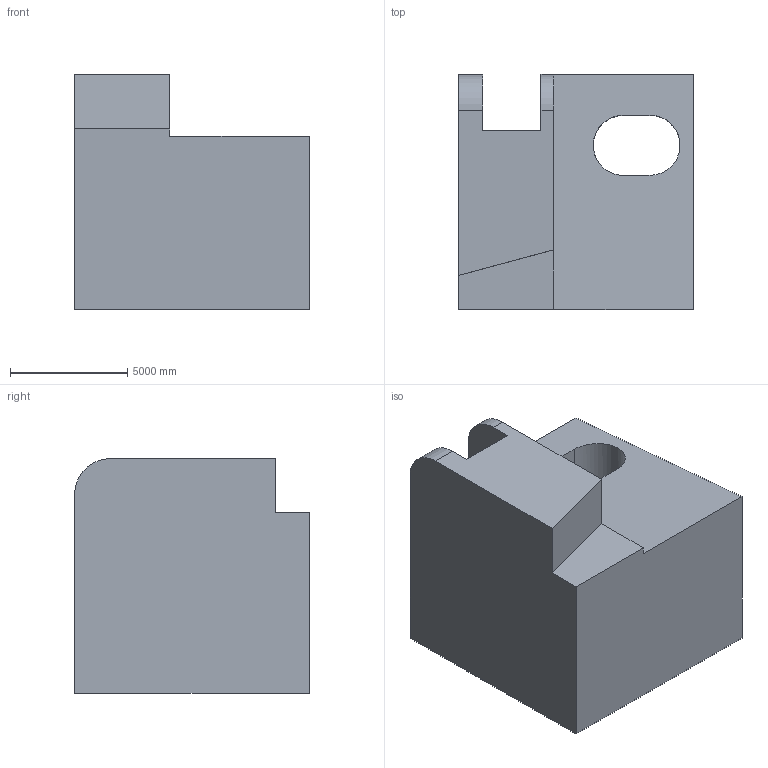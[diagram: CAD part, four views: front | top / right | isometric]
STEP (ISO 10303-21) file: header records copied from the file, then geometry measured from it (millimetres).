
FILE_DESCRIPTION (( 'STEP AP203' ), '1' );
FILE_NAME ('592.STEP', '2022-07-29T11:59:02', ( 'user' ), ( '' ), 'SwSTEP 2.0', 'SolidWorks 2021', '' );
FILE_SCHEMA (( 'CONFIG_CONTROL_DESIGN' ));
Length unit declared in the file: centimetre
Products named in the file (1): 592
Bounding box: 10000 x 10000 x 10000 mm (x, y, z)
Volume: 676069397604.5 mm3; surface area: 653884016 mm2
Topology: 1 solids, 1 shells, 29 faces, 81 edges, 54 vertices
Faces by surface type: plane 24, cylinder 5
Entity records: 1003 total; most frequent: CARTESIAN_POINT 174, ORIENTED_EDGE 162, DIRECTION 145, EDGE_CURVE 81, LINE 71, VECTOR 71, VERTEX_POINT 54, AXIS2_PLACEMENT_3D 37
